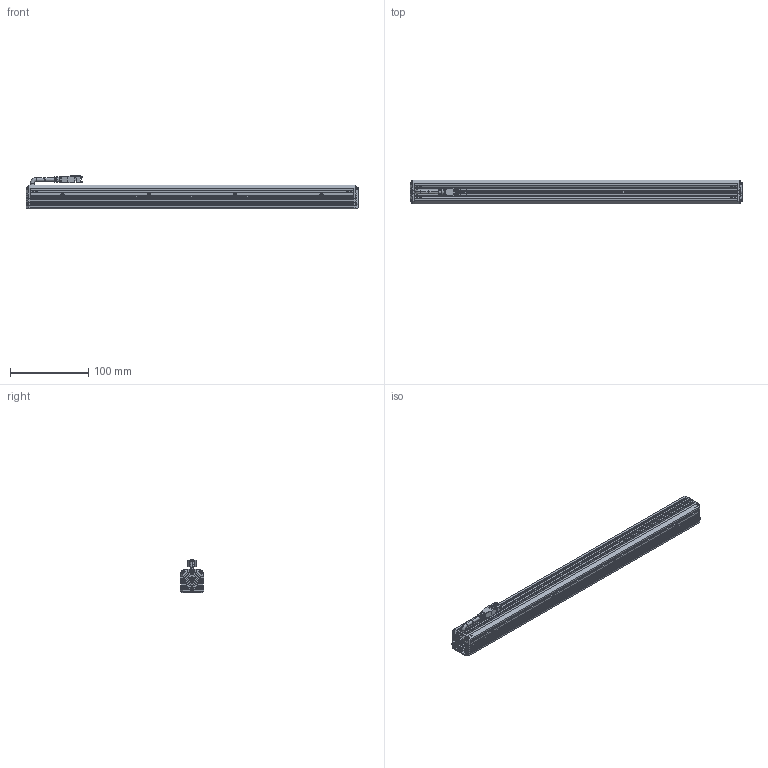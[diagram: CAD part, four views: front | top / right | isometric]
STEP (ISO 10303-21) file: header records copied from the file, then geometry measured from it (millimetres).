
FILE_DESCRIPTION((''),'2;1');
FILE_NAME('MV-LLDS-H-450-30-W-PL_ASM','2024-04-08T14:09:45',('huguozhe'),(''),'CREO PARAMETRIC BY PTC INC, 2020044','CREO PARAMETRIC BY PTC INC, 2020044','');
FILE_SCHEMA(('AUTOMOTIVE_DESIGN { 1 0 10303 214 1 1 1 1 }'));
Length unit declared in the file: millimetre
Products named in the file (15): DE-15-001264; DE-15-001263_ASM; DE-15-000502; DE-15-000501_ASM; DE-12-002271; TIP-M3X4-4_5X5-SO-ET-07061033; DE-12-002271_ASM; DE-12-001578; SC-KM2X6-BNI-GB819; XIANLAN_HEAD; CABLE_HEAD; CABLE_HEAD_ASM_ASM; 190100852; SC-PM2X6B-JMP; MV-LLDS-H-450-30-W-PL_ASM
Assembly tree (33 placements, depth 3):
  MV-LLDS-H-450-30-W-PL_ASM
    DE-15-001263_ASM
      DE-15-001264
    DE-15-000501_ASM
      DE-15-000502
    DE-12-002271_ASM  x2
      DE-12-002271
      TIP-M3X4-4_5X5-SO-ET-07061033
    DE-12-001578
    SC-KM2X6-BNI-GB819  x4
    CABLE_HEAD_ASM_ASM
      XIANLAN_HEAD
      CABLE_HEAD
    190100852  x8
    SC-PM2X6B-JMP  x8
Bounding box: 423 x 30 x 42.65 mm (x, y, z)
Volume: 291923.5 mm3; surface area: 159992.3 mm2
Topology: 31 solids, 67 shells, 2798 faces, 7224 edges, 4549 vertices
Faces by surface type: plane 1344, cylinder 610, bspline 472, cone 313, torus 50, sphere 8, extrusion 1
Entity records: 48113 total; most frequent: CARTESIAN_POINT 11239, ORIENTED_EDGE 6166, DIRECTION 5951, EDGE_CURVE 3115, VERTEX_POINT 1996, AXIS2_PLACEMENT_3D 1985, VECTOR 1981, LINE 1980
